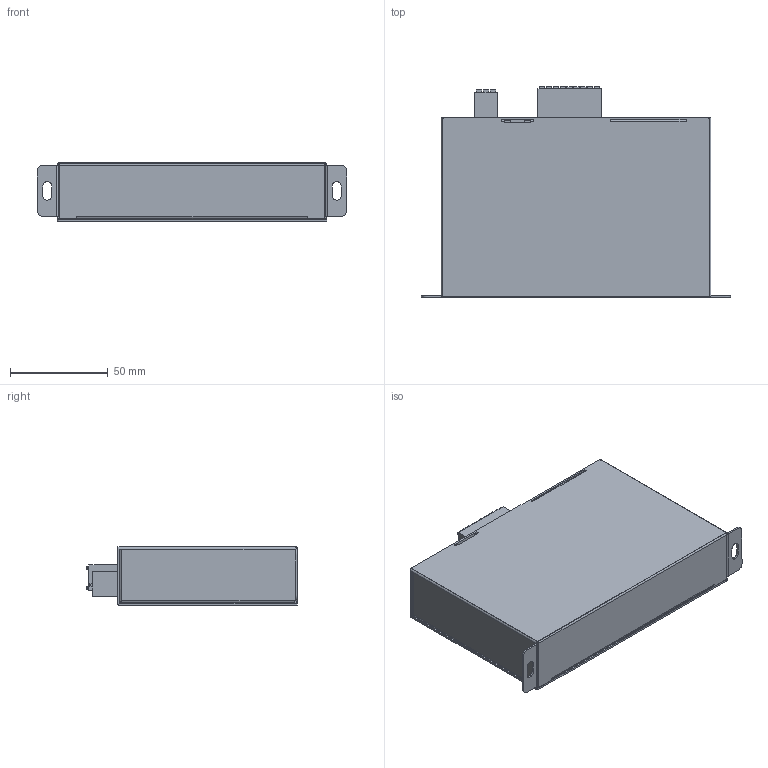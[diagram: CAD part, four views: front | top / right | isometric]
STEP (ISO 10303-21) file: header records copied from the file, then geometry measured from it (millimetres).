
FILE_DESCRIPTION (( 'STEP AP214' ), '1' );
FILE_NAME ('錨璃27^B10杅趼厙壽.STEP', '2023-05-09T08:49:56', ( '' ), ( '' ), 'SwSTEP 2.0', 'SolidWorks 2018', '' );
FILE_SCHEMA (( 'AUTOMOTIVE_DESIGN' ));
Length unit declared in the file: millimetre
Products named in the file (1): 錨璃27^B10杅趼厙壽
Bounding box: 158 x 107.8 x 30 mm (x, y, z)
Volume: 379587.6 mm3; surface area: 51229.1 mm2
Topology: 1 solids, 1 shells, 482 faces, 1235 edges, 816 vertices
Faces by surface type: plane 409, cylinder 65, cone 4, bspline 4
Full cylindrical faces by diameter (mm): 0.847 x3, 1.5 x3, 3 x21, 4 x1
Entity records: 14395 total; most frequent: CARTESIAN_POINT 2692, ORIENTED_EDGE 2394, DIRECTION 2271, EDGE_CURVE 1197, LINE 1041, VECTOR 1041, VERTEX_POINT 810, AXIS2_PLACEMENT_3D 615
